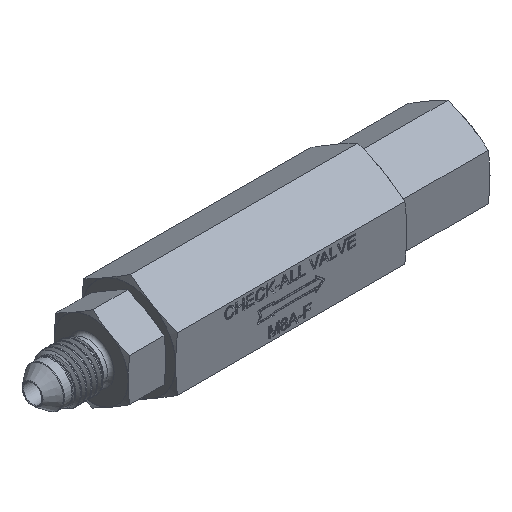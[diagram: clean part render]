
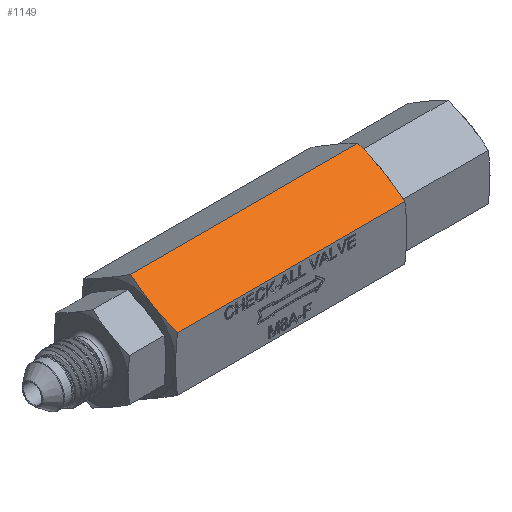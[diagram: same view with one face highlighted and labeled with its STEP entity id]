
A CAD part, isometric view. The second image highlights one B-rep face of the part: STEP entity #1149.
In plain terms, the highlighted planar face has unit normal (0, -0.5, 0.866).
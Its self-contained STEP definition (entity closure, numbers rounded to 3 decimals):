
#1149 = ADVANCED_FACE( '', ( #2498 ), #2499, .T. );
#2498 = FACE_OUTER_BOUND( '', #10933, .T. );
#2499 = PLANE( '', #10934 );
#10933 = EDGE_LOOP( '', ( #14449, #14450, #14451, #14452, #14453, #14454, #14455, #14456, #14457 ) );
#10934 = AXIS2_PLACEMENT_3D( '', #14458, #14459, #14460 );
#14449 = ORIENTED_EDGE( '', *, *, #16466, .T. );
#14450 = ORIENTED_EDGE( '', *, *, #15958, .T. );
#14451 = ORIENTED_EDGE( '', *, *, #16592, .T. );
#14452 = ORIENTED_EDGE( '', *, *, #16593, .T. );
#14453 = ORIENTED_EDGE( '', *, *, #16479, .F. );
#14454 = ORIENTED_EDGE( '', *, *, #16459, .T. );
#14455 = ORIENTED_EDGE( '', *, *, #16574, .T. );
#14456 = ORIENTED_EDGE( '', *, *, #16347, .T. );
#14457 = ORIENTED_EDGE( '', *, *, #15473, .T. );
#14458 = CARTESIAN_POINT( '', ( 22.506, 0., 12.832 ) );
#14459 = DIRECTION( '', ( 0., -0.5, 0.866 ) );
#14460 = DIRECTION( '', ( 0., -0.866, -0.5 ) );
#15473 = EDGE_CURVE( '', #16946, #16948, #16950, .T. );
#15958 = EDGE_CURVE( '', #17771, #17769, #17772, .T. );
#16347 = EDGE_CURVE( '', #18322, #16946, #18323, .T. );
#16459 = EDGE_CURVE( '', #18464, #18462, #18465, .T. );
#16466 = EDGE_CURVE( '', #16948, #17771, #18475, .T. );
#16479 = EDGE_CURVE( '', #18464, #18487, #18489, .T. );
#16574 = EDGE_CURVE( '', #18462, #18322, #18601, .T. );
#16592 = EDGE_CURVE( '', #17769, #18621, #18622, .T. );
#16593 = EDGE_CURVE( '', #18621, #18487, #18623, .T. );
#16946 = VERTEX_POINT( '', #19139 );
#16948 = VERTEX_POINT( '', #19142 );
#16950 = ELLIPSE( '', #19147, 3.248, 0.252 );
#17769 = VERTEX_POINT( '', #22342 );
#17771 = VERTEX_POINT( '', #22347 );
#17772 = LINE( '', #22348, #22349 );
#18322 = VERTEX_POINT( '', #23883 );
#18323 = ELLIPSE( '', #23884, 3.18, 0.245 );
#18462 = VERTEX_POINT( '', #24561 );
#18464 = VERTEX_POINT( '', #24566 );
#18465 = LINE( '', #24567, #24568 );
#18475 = B_SPLINE_CURVE_WITH_KNOTS( '', 3, ( #24590, #24591, #24592, #24593 ), .UNSPECIFIED., .F., .F., ( 4, 4 ), ( 0., 0.006 ), .UNSPECIFIED. );
#18487 = VERTEX_POINT( '', #24609 );
#18489 = B_SPLINE_CURVE_WITH_KNOTS( '', 3, ( #24611, #24612, #24613, #24614 ), .UNSPECIFIED., .F., .F., ( 4, 4 ), ( 0., 0.006 ), .UNSPECIFIED. );
#18601 = B_SPLINE_CURVE_WITH_KNOTS( '', 3, ( #24941, #24942, #24943, #24944 ), .UNSPECIFIED., .F., .F., ( 4, 4 ), ( 0., 0.006 ), .UNSPECIFIED. );
#18621 = VERTEX_POINT( '', #24973 );
#18622 = B_SPLINE_CURVE_WITH_KNOTS( '', 3, ( #24974, #24975, #24976, #24977 ), .UNSPECIFIED., .F., .F., ( 4, 4 ), ( 0., 0.006 ), .UNSPECIFIED. );
#18623 = B_SPLINE_CURVE_WITH_KNOTS( '', 3, ( #24978, #24979, #24980, #24981, #24982, #24983 ), .UNSPECIFIED., .F., .F., ( 4, 2, 4 ), ( 0., 0.001, 0.002 ), .UNSPECIFIED. );
#19139 = CARTESIAN_POINT( '', ( 22.835, -5.556, 9.624 ) );
#19142 = CARTESIAN_POINT( '', ( 22.843, -6.291, 9.2 ) );
#19147 = AXIS2_PLACEMENT_3D( '', #25316, #25317, #25318 );
#22342 = CARTESIAN_POINT( '', ( 77.136, -11.113, 6.416 ) );
#22347 = CARTESIAN_POINT( '', ( 23.295, -11.113, 6.416 ) );
#22348 = CARTESIAN_POINT( '', ( 22.506, -11.113, 6.416 ) );
#22349 = VECTOR( '', #25623, 1000. );
#23883 = CARTESIAN_POINT( '', ( 22.843, -4.822, 10.048 ) );
#23884 = AXIS2_PLACEMENT_3D( '', #25870, #25871, #25872 );
#24561 = CARTESIAN_POINT( '', ( 23.295, 0., 12.832 ) );
#24566 = CARTESIAN_POINT( '', ( 77.136, 0., 12.832 ) );
#24567 = CARTESIAN_POINT( '', ( 22.506, 0., 12.832 ) );
#24568 = VECTOR( '', #25928, 1000. );
#24590 = CARTESIAN_POINT( '', ( 22.843, -6.291, 9.2 ) );
#24591 = CARTESIAN_POINT( '', ( 22.881, -7.906, 8.267 ) );
#24592 = CARTESIAN_POINT( '', ( 23.048, -9.512, 7.34 ) );
#24593 = CARTESIAN_POINT( '', ( 23.295, -11.113, 6.416 ) );
#24609 = CARTESIAN_POINT( '', ( 77.588, -4.822, 10.048 ) );
#24611 = CARTESIAN_POINT( '', ( 77.136, 0., 12.832 ) );
#24612 = CARTESIAN_POINT( '', ( 77.384, -1.601, 11.908 ) );
#24613 = CARTESIAN_POINT( '', ( 77.55, -3.207, 10.98 ) );
#24614 = CARTESIAN_POINT( '', ( 77.588, -4.822, 10.048 ) );
#24941 = CARTESIAN_POINT( '', ( 23.295, 0., 12.832 ) );
#24942 = CARTESIAN_POINT( '', ( 23.048, -1.601, 11.908 ) );
#24943 = CARTESIAN_POINT( '', ( 22.881, -3.207, 10.98 ) );
#24944 = CARTESIAN_POINT( '', ( 22.843, -4.822, 10.048 ) );
#24973 = CARTESIAN_POINT( '', ( 77.588, -6.291, 9.2 ) );
#24974 = CARTESIAN_POINT( '', ( 77.136, -11.113, 6.416 ) );
#24975 = CARTESIAN_POINT( '', ( 77.384, -9.512, 7.34 ) );
#24976 = CARTESIAN_POINT( '', ( 77.55, -7.906, 8.267 ) );
#24977 = CARTESIAN_POINT( '', ( 77.588, -6.291, 9.2 ) );
#24978 = CARTESIAN_POINT( '', ( 77.588, -6.291, 9.2 ) );
#24979 = CARTESIAN_POINT( '', ( 77.594, -6.046, 9.341 ) );
#24980 = CARTESIAN_POINT( '', ( 77.595, -5.801, 9.482 ) );
#24981 = CARTESIAN_POINT( '', ( 77.595, -5.311, 9.765 ) );
#24982 = CARTESIAN_POINT( '', ( 77.594, -5.067, 9.906 ) );
#24983 = CARTESIAN_POINT( '', ( 77.588, -4.822, 10.048 ) );
#25316 = CARTESIAN_POINT( '', ( 23.087, -5.555, 9.624 ) );
#25317 = DIRECTION( '', ( 0., -0.5, 0.866 ) );
#25318 = DIRECTION( '', ( 0., 0.866, 0.5 ) );
#25623 = DIRECTION( '', ( 1., 0., 0. ) );
#25870 = CARTESIAN_POINT( '', ( 23.08, -5.554, 9.625 ) );
#25871 = DIRECTION( '', ( 0., -0.5, 0.866 ) );
#25872 = DIRECTION( '', ( 0., 0.866, 0.5 ) );
#25928 = DIRECTION( '', ( -1., 0., 0. ) );
